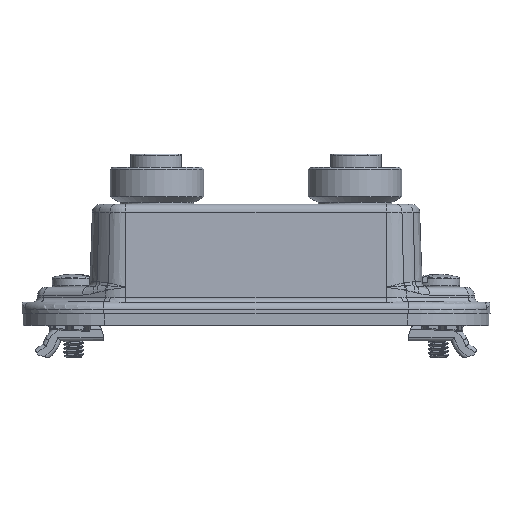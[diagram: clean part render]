
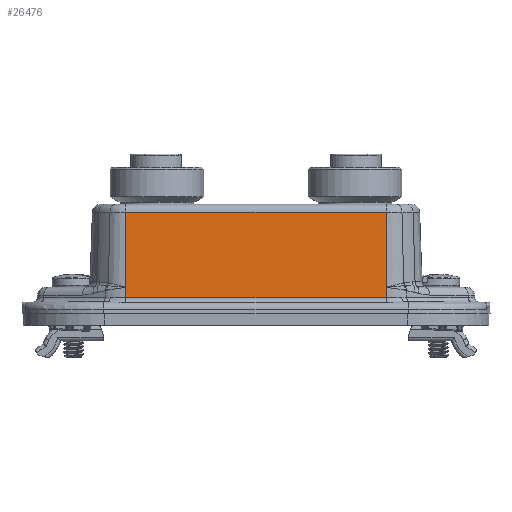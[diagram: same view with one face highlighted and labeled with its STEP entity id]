
A CAD part, top view. The second image highlights one B-rep face of the part: STEP entity #26476.
In plain terms, the highlighted planar face has unit normal (0, 0.035, 0.999).
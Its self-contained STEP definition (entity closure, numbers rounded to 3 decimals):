
#2552=LINE('',#56123,#3657);
#2578=LINE('',#57557,#3683);
#2587=LINE('',#57615,#3692);
#2595=LINE('',#57630,#3700);
#2599=LINE('',#57637,#3704);
#2600=LINE('',#57638,#3705);
#3657=VECTOR('',#33539,1000.);
#3683=VECTOR('',#33883,1000.);
#3692=VECTOR('',#33962,1000.);
#3700=VECTOR('',#33984,1000.);
#3704=VECTOR('',#33994,1000.);
#3705=VECTOR('',#33995,1000.);
#5821=FACE_OUTER_BOUND('',#7643,.T.);
#7643=EDGE_LOOP('',(#20064,#20065,#20066,#20067,#20068,#20069));
#11668=VERTEX_POINT('',#56091);
#11672=VERTEX_POINT('',#56119);
#11719=VERTEX_POINT('',#56593);
#11753=VERTEX_POINT('',#57029);
#11798=VERTEX_POINT('',#57541);
#11802=VERTEX_POINT('',#57553);
#14660=EDGE_CURVE('',#11672,#11668,#2552,.T.);
#14863=EDGE_CURVE('',#11802,#11798,#2578,.T.);
#14893=EDGE_CURVE('',#11753,#11668,#2587,.T.);
#14901=EDGE_CURVE('',#11719,#11672,#2595,.T.);
#14905=EDGE_CURVE('',#11802,#11753,#2599,.T.);
#14906=EDGE_CURVE('',#11798,#11719,#2600,.T.);
#20064=ORIENTED_EDGE('',*,*,#14901,.T.);
#20065=ORIENTED_EDGE('',*,*,#14660,.T.);
#20066=ORIENTED_EDGE('',*,*,#14893,.F.);
#20067=ORIENTED_EDGE('',*,*,#14905,.F.);
#20068=ORIENTED_EDGE('',*,*,#14863,.T.);
#20069=ORIENTED_EDGE('',*,*,#14906,.T.);
#25271=PLANE('',#28916);
#26476=ADVANCED_FACE('',(#5821),#25271,.T.);
#28916=AXIS2_PLACEMENT_3D('',#57636,#33992,#33993);
#33539=DIRECTION('',(1.,0.,0.));
#33883=DIRECTION('',(-1.,0.,0.));
#33962=DIRECTION('',(0.,-0.999,0.035));
#33984=DIRECTION('',(0.,-0.999,0.035));
#33992=DIRECTION('center_axis',(0.,0.035,0.999));
#33993=DIRECTION('ref_axis',(0.,-0.999,0.035));
#33994=DIRECTION('',(0.,-0.999,0.035));
#33995=DIRECTION('',(0.,-0.999,0.035));
#56091=CARTESIAN_POINT('',(34.045,-6.988,20.212));
#56119=CARTESIAN_POINT('',(-36.726,-6.988,20.212));
#56123=CARTESIAN_POINT('',(-106.78,-6.988,20.212));
#56593=CARTESIAN_POINT('',(-36.726,-4.076,20.11));
#57029=CARTESIAN_POINT('',(34.045,-4.076,20.11));
#57541=CARTESIAN_POINT('',(-36.726,16.326,19.398));
#57553=CARTESIAN_POINT('',(34.045,16.326,19.398));
#57557=CARTESIAN_POINT('',(-106.78,16.326,19.398));
#57615=CARTESIAN_POINT('',(34.045,-8.076,20.25));
#57630=CARTESIAN_POINT('',(-36.726,-8.076,20.25));
#57636=CARTESIAN_POINT('Origin',(-106.78,-8.076,20.25));
#57637=CARTESIAN_POINT('',(34.045,-8.076,20.25));
#57638=CARTESIAN_POINT('',(-36.726,-8.076,20.25));
